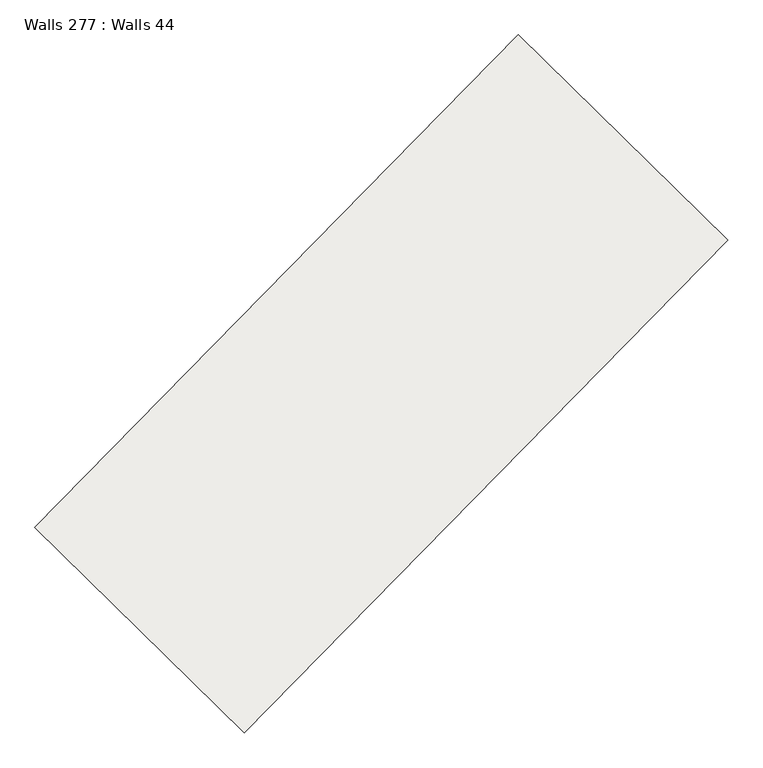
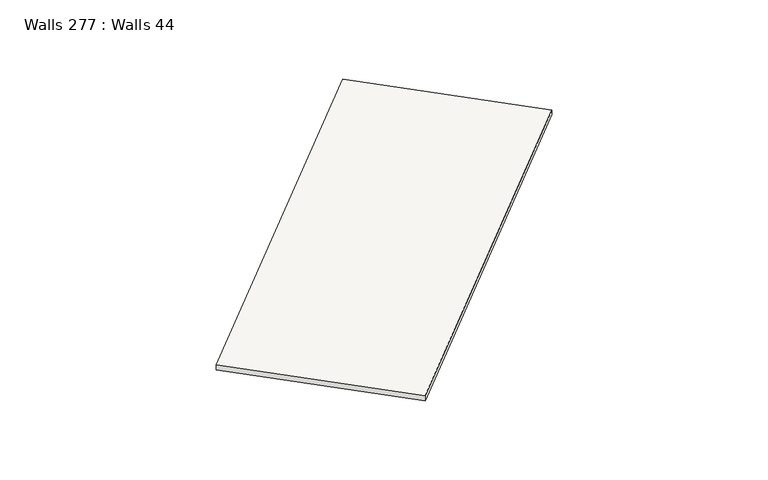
"""IFC4 building model written with IfcOpenShell, lengths in millimetres: slab geometry, Walls 277 : Walls 44."""

from ifc_helpers import new_model, si_unit, frame, origin, place, context, project, spatial, polyline, outline, extrude, source, transform, mapped, element, save


def walls_277_walls_44_0d12fe6d(model_context):
    return source(origin(), model_context, "Body", "SweptSolid", [
        extrude(outline(polyline([(-50.0, 0.0), (50.0, 0.0), (-40.0, -8699.9999996), (-140.0, -8699.9999996), (-50.0, 0.0)])), frame((-115728.7352441, -277274.737371, 636360.0), z_axis=(-0.7137361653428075, 0.7004146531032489, 0.0), x_axis=(0.0, 0.0, 1.0)), (0.0, 0.0, 1.0), 3699.999995),
    ])


if __name__ == "__main__":
    model = new_model("IFC4")
    model_context = context("Model", 3, world=origin())
    ifc_project = project(units=[si_unit("LENGTHUNIT", "METRE", prefix="MILLI")], contexts=[model_context])
    site = spatial("IfcSite", under=ifc_project)
    building = spatial("IfcBuilding", under=site)
    placement = place(None, origin())
    walls_277_walls_44_shape = walls_277_walls_44_0d12fe6d(model_context)
    element("IfcSlab", 1, ObjectType="Walls 277 : Walls 44", at=placement, inside=building, context=model_context, shape_type="MappedRepresentation", body=[
        mapped(walls_277_walls_44_shape, transform((0.0, 0.0, 0.0), x_axis=(1.0, 0.0, 0.0), y_axis=(0.0, 1.0, 0.0), z_axis=(0.0, 0.0, 1.0))),
    ])
    save(model, "model.ifc")
